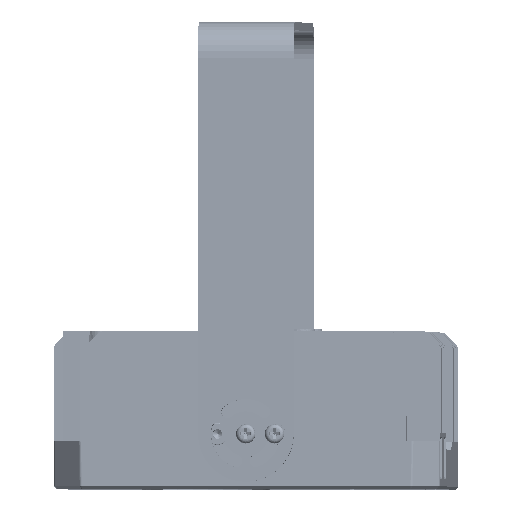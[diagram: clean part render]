
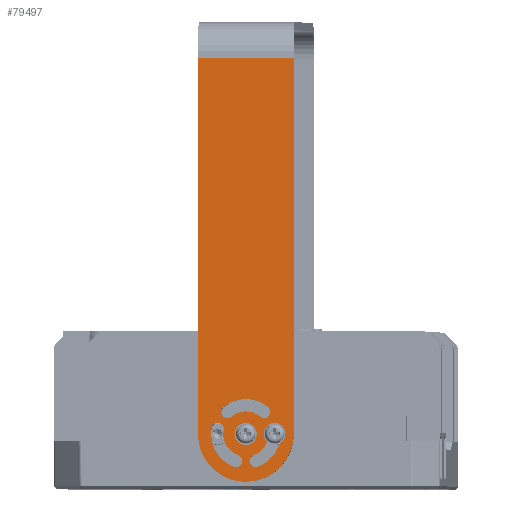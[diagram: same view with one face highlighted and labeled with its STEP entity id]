
A CAD part, top view. The second image highlights one B-rep face of the part: STEP entity #79497.
In plain terms, the highlighted planar face has unit normal (-0.027, 0, 1) as drawn and (1, 0, 0) by its records, which use the part's own axes.
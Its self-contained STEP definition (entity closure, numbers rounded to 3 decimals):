
#78286=DIRECTION('',(0.,0.,-1.));
#78287=VECTOR('',#78286,137.5);
#78288=CARTESIAN_POINT('',(138.,0.,87.5));
#78289=LINE('',#78288,#78287);
#78334=CARTESIAN_POINT('',(138.,17.5,87.5));
#78335=DIRECTION('',(1.,0.,0.));
#78336=DIRECTION('',(0.,1.,0.));
#78337=AXIS2_PLACEMENT_3D('',#78334,#78335,#78336);
#78354=CARTESIAN_POINT('',(138.,17.5,87.5));
#78355=DIRECTION('',(1.,0.,0.));
#78356=DIRECTION('',(0.,-1.,0.));
#78357=AXIS2_PLACEMENT_3D('',#78354,#78355,#78356);
#78359=CARTESIAN_POINT('',(138.,17.5,87.5));
#78360=DIRECTION('',(1.,0.,0.));
#78361=DIRECTION('',(0.,1.,0.));
#78362=AXIS2_PLACEMENT_3D('',#78359,#78360,#78361);
#78364=CARTESIAN_POINT('',(138.,24.249,79.457));
#78365=DIRECTION('',(1.,0.,0.));
#78366=DIRECTION('',(0.,0.643,-0.766));
#78367=AXIS2_PLACEMENT_3D('',#78364,#78365,#78366);
#78369=CARTESIAN_POINT('',(138.,10.751,79.457));
#78370=DIRECTION('',(-1.,0.,0.));
#78371=DIRECTION('',(0.,-0.643,-0.766));
#78372=AXIS2_PLACEMENT_3D('',#78369,#78370,#78371);
#78374=CARTESIAN_POINT('',(138.,21.091,97.367));
#78375=DIRECTION('',(1.,0.,0.));
#78376=DIRECTION('',(0.,0.342,0.94));
#78377=AXIS2_PLACEMENT_3D('',#78374,#78375,#78376);
#78379=CARTESIAN_POINT('',(138.,27.84,85.677));
#78380=DIRECTION('',(-1.,0.,0.));
#78381=DIRECTION('',(0.,0.985,-0.174));
#78382=AXIS2_PLACEMENT_3D('',#78379,#78380,#78381);
#78384=CARTESIAN_POINT('',(138.,7.16,85.677));
#78385=DIRECTION('',(1.,0.,0.));
#78386=DIRECTION('',(0.,-0.985,-0.174));
#78387=AXIS2_PLACEMENT_3D('',#78384,#78385,#78386);
#78389=CARTESIAN_POINT('',(138.,13.909,97.367));
#78390=DIRECTION('',(-1.,0.,0.));
#78391=DIRECTION('',(0.,-0.342,0.94));
#78392=AXIS2_PLACEMENT_3D('',#78389,#78390,#78391);
#78416=DIRECTION('',(0.,0.,-1.));
#78417=VECTOR('',#78416,137.5);
#78418=CARTESIAN_POINT('',(138.,35.,87.5));
#78419=LINE('',#78418,#78417);
#78568=DIRECTION('',(0.,1.,0.));
#78569=VECTOR('',#78568,35.);
#78570=CARTESIAN_POINT('',(138.,0.,-50.));
#78571=LINE('',#78570,#78569);
#78758=CARTESIAN_POINT('',(138.,17.5,87.5));
#78759=DIRECTION('',(-1.,0.,0.));
#78760=DIRECTION('',(0.,0.643,-0.766));
#78761=AXIS2_PLACEMENT_3D('',#78758,#78759,#78760);
#78795=CARTESIAN_POINT('',(138.,17.5,87.5));
#78796=DIRECTION('',(1.,0.,0.));
#78797=DIRECTION('',(0.,-0.643,-0.766));
#78798=AXIS2_PLACEMENT_3D('',#78795,#78796,#78797);
#78830=CARTESIAN_POINT('',(138.,17.5,87.5));
#78831=DIRECTION('',(-1.,0.,0.));
#78832=DIRECTION('',(0.,0.342,0.94));
#78833=AXIS2_PLACEMENT_3D('',#78830,#78831,#78832);
#78867=CARTESIAN_POINT('',(138.,17.5,87.5));
#78868=DIRECTION('',(1.,0.,0.));
#78869=DIRECTION('',(0.,0.985,-0.174));
#78870=AXIS2_PLACEMENT_3D('',#78867,#78868,#78869);
#78902=CARTESIAN_POINT('',(138.,17.5,87.5));
#78903=DIRECTION('',(-1.,0.,0.));
#78904=DIRECTION('',(0.,-0.985,-0.174));
#78905=AXIS2_PLACEMENT_3D('',#78902,#78903,#78904);
#78939=CARTESIAN_POINT('',(138.,17.5,87.5));
#78940=DIRECTION('',(1.,0.,0.));
#78941=DIRECTION('',(0.,-0.342,0.94));
#78942=AXIS2_PLACEMENT_3D('',#78939,#78940,#78941);
#79146=CARTESIAN_POINT('',(138.,0.,-50.));
#79148=VERTEX_POINT('',#79146);
#79162=CARTESIAN_POINT('',(138.,35.,-50.));
#79164=VERTEX_POINT('',#79162);
#79175=CARTESIAN_POINT('',(138.,35.,87.5));
#79177=VERTEX_POINT('',#79175);
#79178=CARTESIAN_POINT('',(138.,0.,87.5));
#79180=VERTEX_POINT('',#79178);
#79194=CARTESIAN_POINT('',(138.,15.25,87.5));
#79195=CARTESIAN_POINT('',(138.,19.75,87.5));
#79196=VERTEX_POINT('',#79194);
#79197=VERTEX_POINT('',#79195);
#79210=CARTESIAN_POINT('',(138.,25.696,77.733));
#79211=CARTESIAN_POINT('',(138.,22.803,81.18));
#79212=VERTEX_POINT('',#79210);
#79213=VERTEX_POINT('',#79211);
#79218=CARTESIAN_POINT('',(138.,9.304,77.733));
#79220=VERTEX_POINT('',#79218);
#79226=CARTESIAN_POINT('',(138.,12.197,81.18));
#79228=VERTEX_POINT('',#79226);
#79242=CARTESIAN_POINT('',(138.,21.861,99.481));
#79243=CARTESIAN_POINT('',(138.,20.322,95.252));
#79244=VERTEX_POINT('',#79242);
#79245=VERTEX_POINT('',#79243);
#79258=CARTESIAN_POINT('',(138.,4.944,85.286));
#79259=CARTESIAN_POINT('',(138.,9.375,86.067));
#79260=VERTEX_POINT('',#79258);
#79261=VERTEX_POINT('',#79259);
#79266=CARTESIAN_POINT('',(138.,30.056,85.286));
#79268=VERTEX_POINT('',#79266);
#79274=CARTESIAN_POINT('',(138.,25.625,86.067));
#79276=VERTEX_POINT('',#79274);
#79282=CARTESIAN_POINT('',(138.,13.139,99.481));
#79284=VERTEX_POINT('',#79282);
#79290=CARTESIAN_POINT('',(138.,14.678,95.252));
#79292=VERTEX_POINT('',#79290);
#79448=CARTESIAN_POINT('',(138.,0.,105.));
#79449=DIRECTION('',(1.,0.,0.));
#79450=DIRECTION('',(0.,0.,-1.));
#79451=AXIS2_PLACEMENT_3D('',#79448,#79449,#79450);
#79452=PLANE('',#79451);
#79453=ORIENTED_EDGE('',*,*,#79423,.F.);
#79455=ORIENTED_EDGE('',*,*,#79454,.T.);
#79457=ORIENTED_EDGE('',*,*,#79456,.F.);
#79458=ORIENTED_EDGE('',*,*,#79393,.F.);
#79459=EDGE_LOOP('',(#79453,#79455,#79457,#79458));
#79460=FACE_OUTER_BOUND('',#79459,.F.);
#79462=ORIENTED_EDGE('',*,*,#79461,.T.);
#79464=ORIENTED_EDGE('',*,*,#79463,.T.);
#79465=EDGE_LOOP('',(#79462,#79464));
#79466=FACE_BOUND('',#79465,.F.);
#79468=ORIENTED_EDGE('',*,*,#79467,.F.);
#79470=ORIENTED_EDGE('',*,*,#79469,.T.);
#79472=ORIENTED_EDGE('',*,*,#79471,.F.);
#79474=ORIENTED_EDGE('',*,*,#79473,.F.);
#79475=EDGE_LOOP('',(#79468,#79470,#79472,#79474));
#79476=FACE_BOUND('',#79475,.F.);
#79478=ORIENTED_EDGE('',*,*,#79477,.F.);
#79480=ORIENTED_EDGE('',*,*,#79479,.T.);
#79482=ORIENTED_EDGE('',*,*,#79481,.F.);
#79484=ORIENTED_EDGE('',*,*,#79483,.F.);
#79485=EDGE_LOOP('',(#79478,#79480,#79482,#79484));
#79486=FACE_BOUND('',#79485,.F.);
#79488=ORIENTED_EDGE('',*,*,#79487,.F.);
#79490=ORIENTED_EDGE('',*,*,#79489,.T.);
#79492=ORIENTED_EDGE('',*,*,#79491,.F.);
#79494=ORIENTED_EDGE('',*,*,#79493,.F.);
#79495=EDGE_LOOP('',(#79488,#79490,#79492,#79494));
#79496=FACE_BOUND('',#79495,.F.);
#79497=ADVANCED_FACE('',(#79460,#79466,#79476,#79486,#79496),#79452,.T.);
#78338=CIRCLE('',#78337,17.5);
#78358=CIRCLE('',#78357,2.25);
#78363=CIRCLE('',#78362,2.25);
#78368=CIRCLE('',#78367,2.25);
#78373=CIRCLE('',#78372,2.25);
#78378=CIRCLE('',#78377,2.25);
#78383=CIRCLE('',#78382,2.25);
#78388=CIRCLE('',#78387,2.25);
#78393=CIRCLE('',#78392,2.25);
#78762=CIRCLE('',#78761,12.75);
#78799=CIRCLE('',#78798,8.25);
#78834=CIRCLE('',#78833,12.75);
#78871=CIRCLE('',#78870,8.25);
#78906=CIRCLE('',#78905,12.75);
#78943=CIRCLE('',#78942,8.25);
#79393=EDGE_CURVE('',#79180,#79148,#78289,.T.);
#79423=EDGE_CURVE('',#79177,#79180,#78338,.T.);
#79454=EDGE_CURVE('',#79177,#79164,#78419,.T.);
#79456=EDGE_CURVE('',#79148,#79164,#78571,.T.);
#79461=EDGE_CURVE('',#79196,#79197,#78358,.T.);
#79463=EDGE_CURVE('',#79197,#79196,#78363,.T.);
#79467=EDGE_CURVE('',#79212,#79220,#78762,.T.);
#79469=EDGE_CURVE('',#79212,#79213,#78368,.T.);
#79471=EDGE_CURVE('',#79228,#79213,#78799,.T.);
#79473=EDGE_CURVE('',#79220,#79228,#78373,.T.);
#79477=EDGE_CURVE('',#79244,#79268,#78834,.T.);
#79479=EDGE_CURVE('',#79244,#79245,#78378,.T.);
#79481=EDGE_CURVE('',#79276,#79245,#78871,.T.);
#79483=EDGE_CURVE('',#79268,#79276,#78383,.T.);
#79487=EDGE_CURVE('',#79260,#79284,#78906,.T.);
#79489=EDGE_CURVE('',#79260,#79261,#78388,.T.);
#79491=EDGE_CURVE('',#79292,#79261,#78943,.T.);
#79493=EDGE_CURVE('',#79284,#79292,#78393,.T.);
